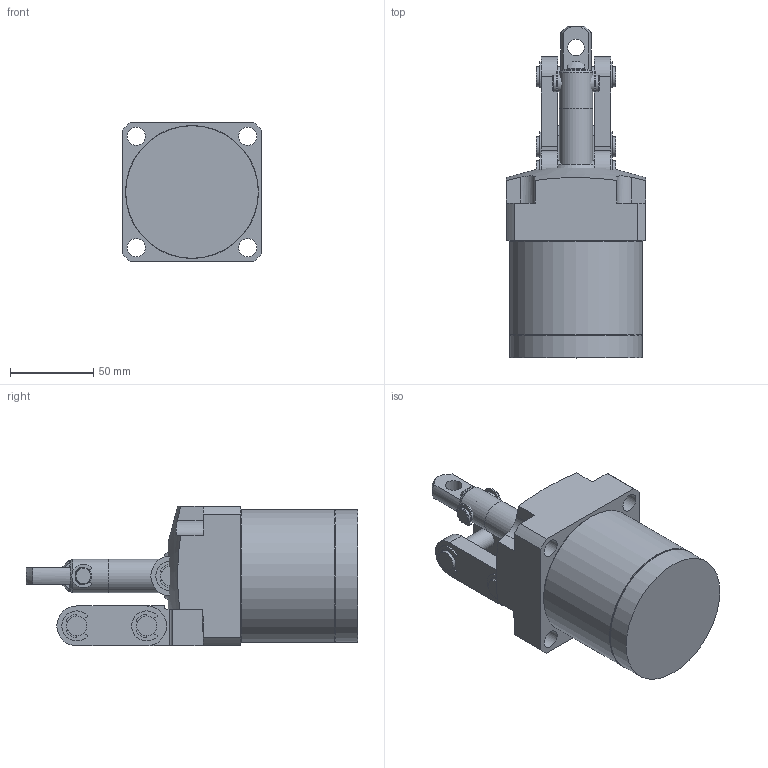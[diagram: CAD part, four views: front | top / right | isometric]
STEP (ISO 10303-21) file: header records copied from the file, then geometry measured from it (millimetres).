
FILE_DESCRIPTION( ( '' ), '1' );
FILE_NAME( 'W:/Catalogue/JL5H/JL5H52-34KR/JL5H52-34KR.stp', '2008-05-26T02:13:45', ( '機械事業部産業機器グループ' ), ( '豊和工業株式会社' ), 'XStep 1.0', ' ', ' ' );
FILE_SCHEMA( ( 'CONFIG_CONTROL_DESIGN' ) );
Length unit declared in the file: millimetre
Products named in the file (5): Assem1; 1; 2; 3; 4
Bounding box: 84 x 199.5 x 84 mm (x, y, z)
Volume: 1196876.4 mm3; surface area: 187752.8 mm2
Topology: 8 solids, 10 shells, 510 faces, 1346 edges, 884 vertices
Faces by surface type: plane 262, cylinder 214, cone 32, torus 2
Full cylindrical faces by diameter (mm): 2 x2, 7 x4, 9 x8, 10 x8, 11 x12, 12 x14, 18.5 x2, 20 x4, 22 x2, 27 x2, 32 x4, 52 x4, 79 x4, 79.7 x2, 80 x2
Entity records: 7915 total; most frequent: CARTESIAN_POINT 1460, DIRECTION 1371, ORIENTED_EDGE 1196, EDGE_CURVE 598, AXIS2_PLACEMENT_3D 536, VERTEX_POINT 421, EDGE_LOOP 344, LINE 299
